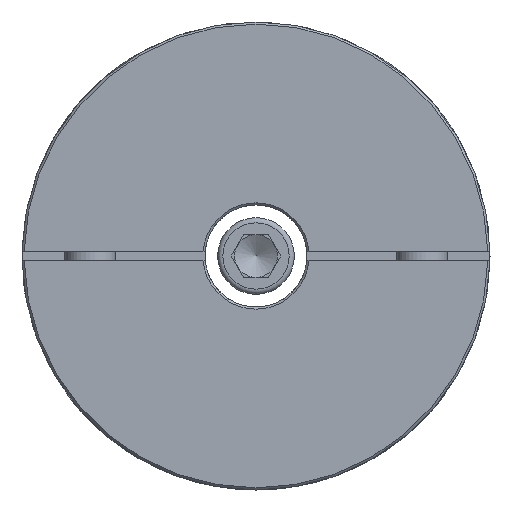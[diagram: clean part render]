
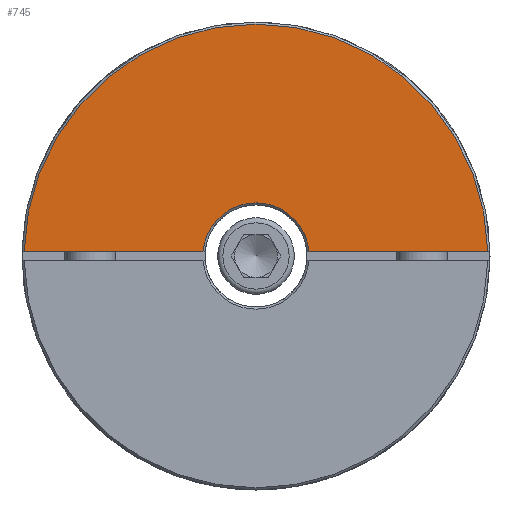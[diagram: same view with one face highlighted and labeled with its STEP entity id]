
A CAD part, left-side view. The second image highlights one B-rep face of the part: STEP entity #745.
In plain terms, the highlighted planar face has unit normal (-1, 0, 0) as drawn and (1, 0, 0) by its records, which use the part's own axes.
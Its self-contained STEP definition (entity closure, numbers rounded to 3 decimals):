
#745 = ADVANCED_FACE( '', ( #1132 ), #1133, .T. );
#1132 = FACE_OUTER_BOUND( '', #1358, .T. );
#1133 = PLANE( '', #1359 );
#1358 = EDGE_LOOP( '', ( #1689, #1690, #1691, #1692 ) );
#1359 = AXIS2_PLACEMENT_3D( '', #1693, #1694, #1695 );
#1689 = ORIENTED_EDGE( '', *, *, #2075, .F. );
#1690 = ORIENTED_EDGE( '', *, *, #2087, .T. );
#1691 = ORIENTED_EDGE( '', *, *, #2079, .F. );
#1692 = ORIENTED_EDGE( '', *, *, #2070, .T. );
#1693 = CARTESIAN_POINT( '', ( 43., 0., 55. ) );
#1694 = DIRECTION( '', ( 1., 0., 0. ) );
#1695 = DIRECTION( '', ( 0., 0., -1. ) );
#2070 = EDGE_CURVE( '', #2317, #2314, #2318, .T. );
#2075 = EDGE_CURVE( '', #2325, #2314, #2327, .T. );
#2079 = EDGE_CURVE( '', #2317, #2333, #2334, .T. );
#2087 = EDGE_CURVE( '', #2325, #2333, #2347, .F. );
#2314 = VERTEX_POINT( '', #2466 );
#2317 = VERTEX_POINT( '', #2472 );
#2318 = CIRCLE( '', #2473, 54.5 );
#2325 = VERTEX_POINT( '', #2484 );
#2327 = LINE( '', #2489, #2490 );
#2333 = VERTEX_POINT( '', #2498 );
#2334 = LINE( '', #2499, #2500 );
#2347 = CIRCLE( '', #2519, 12.5 );
#2466 = CARTESIAN_POINT( '', ( 43., -54.491, 1. ) );
#2472 = CARTESIAN_POINT( '', ( 43., 54.491, 1. ) );
#2473 = AXIS2_PLACEMENT_3D( '', #3026, #3027, #3028 );
#2484 = CARTESIAN_POINT( '', ( 43., -12.46, 1. ) );
#2489 = CARTESIAN_POINT( '', ( 43., 0., 1. ) );
#2490 = VECTOR( '', #3033, 1000. );
#2498 = CARTESIAN_POINT( '', ( 43., 12.46, 1. ) );
#2499 = CARTESIAN_POINT( '', ( 43., 0., 1. ) );
#2500 = VECTOR( '', #3039, 1000. );
#2519 = AXIS2_PLACEMENT_3D( '', #3052, #3053, #3054 );
#3026 = CARTESIAN_POINT( '', ( 43., 0., 0. ) );
#3027 = DIRECTION( '', ( 1., 0., 0. ) );
#3028 = DIRECTION( '', ( 0., 0., -1. ) );
#3033 = DIRECTION( '', ( 0., -1., 0. ) );
#3039 = DIRECTION( '', ( 0., -1., 0. ) );
#3052 = CARTESIAN_POINT( '', ( 43., 0., 0. ) );
#3053 = DIRECTION( '', ( 1., 0., 0. ) );
#3054 = DIRECTION( '', ( 0., 0., -1. ) );
